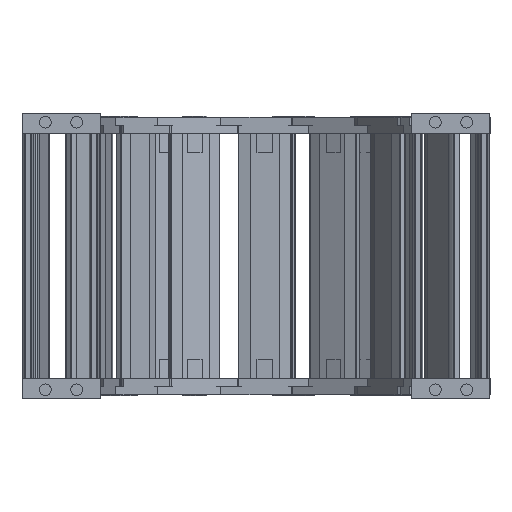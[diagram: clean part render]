
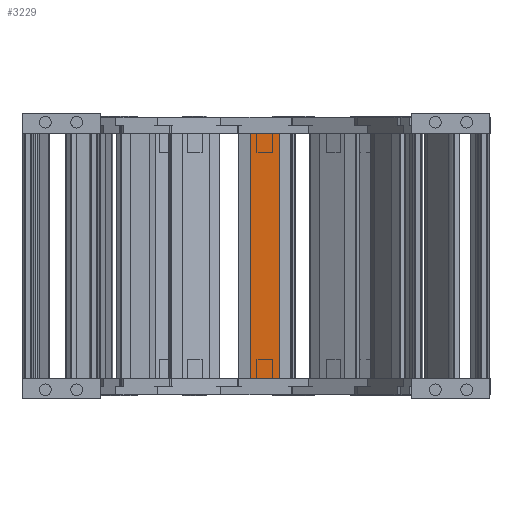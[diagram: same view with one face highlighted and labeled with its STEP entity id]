
A CAD part, left-side view. The second image highlights one B-rep face of the part: STEP entity #3229.
In plain terms, the highlighted planar face has unit normal (-0.999, 0.054, 0) as drawn and (0, -1, 0) by its records, which use the part's own axes.
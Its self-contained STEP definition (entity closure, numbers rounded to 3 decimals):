
#2783=DIRECTION('',(0.,0.,-1.));
#2784=VECTOR('',#2783,15.);
#2785=CARTESIAN_POINT('',(-13.5,0.,7.5));
#2786=LINE('',#2785,#2784);
#2870=DIRECTION('',(-1.,0.,0.));
#2871=VECTOR('',#2870,125.4);
#2872=CARTESIAN_POINT('',(111.9,0.,-7.5));
#2873=LINE('',#2872,#2871);
#2877=DIRECTION('',(1.,0.,0.));
#2878=VECTOR('',#2877,125.4);
#2879=CARTESIAN_POINT('',(-13.5,0.,7.5));
#2880=LINE('',#2879,#2878);
#2884=DIRECTION('',(0.,0.,-1.));
#2885=VECTOR('',#2884,15.);
#2886=CARTESIAN_POINT('',(111.9,0.,7.5));
#2887=LINE('',#2886,#2885);
#3002=CARTESIAN_POINT('',(111.9,0.,7.5));
#3003=CARTESIAN_POINT('',(111.9,0.,-7.5));
#3004=VERTEX_POINT('',#3002);
#3005=VERTEX_POINT('',#3003);
#3026=CARTESIAN_POINT('',(-13.5,0.,-7.5));
#3027=VERTEX_POINT('',#3026);
#3028=CARTESIAN_POINT('',(-13.5,0.,7.5));
#3029=VERTEX_POINT('',#3028);
#3216=CARTESIAN_POINT('',(80.4,0.,0.));
#3217=DIRECTION('',(0.,1.,0.));
#3218=DIRECTION('',(1.,0.,0.));
#3219=AXIS2_PLACEMENT_3D('',#3216,#3217,#3218);
#3220=PLANE('',#3219);
#3221=ORIENTED_EDGE('',*,*,#3202,.T.);
#3222=ORIENTED_EDGE('',*,*,#3067,.F.);
#3224=ORIENTED_EDGE('',*,*,#3223,.T.);
#3226=ORIENTED_EDGE('',*,*,#3225,.T.);
#3227=EDGE_LOOP('',(#3221,#3222,#3224,#3226));
#3228=FACE_OUTER_BOUND('',#3227,.F.);
#3229=ADVANCED_FACE('',(#3228),#3220,.F.);
#3067=EDGE_CURVE('',#3029,#3027,#2786,.T.);
#3202=EDGE_CURVE('',#3005,#3027,#2873,.T.);
#3223=EDGE_CURVE('',#3029,#3004,#2880,.T.);
#3225=EDGE_CURVE('',#3004,#3005,#2887,.T.);
